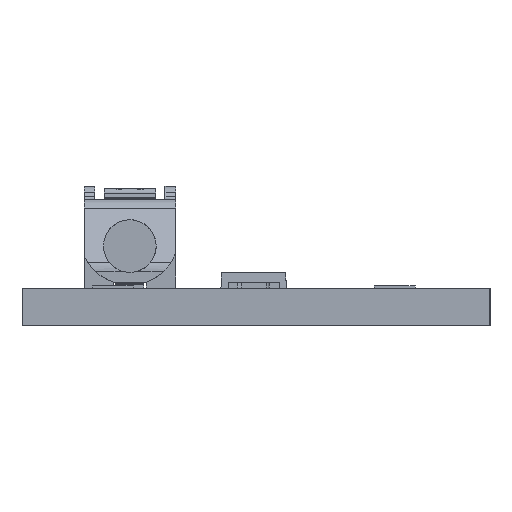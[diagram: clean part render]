
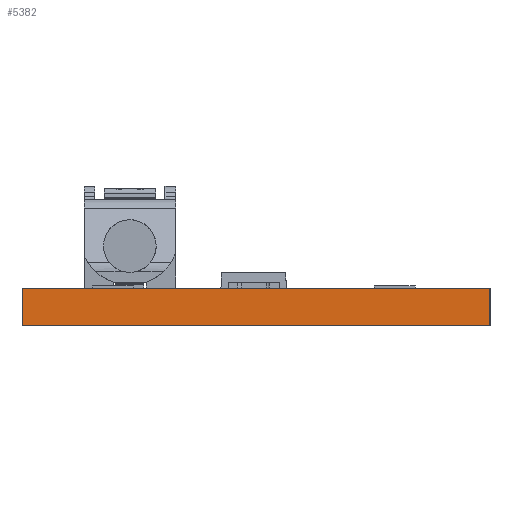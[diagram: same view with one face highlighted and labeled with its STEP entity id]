
A CAD part, left-side view. The second image highlights one B-rep face of the part: STEP entity #5382.
In plain terms, the highlighted planar face has unit normal (-1, 0, 0).
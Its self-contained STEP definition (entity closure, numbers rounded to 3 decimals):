
#351 = EDGE_CURVE ( 'NONE', #4798, #4004, #2205, .T. ) ;
#434 = CARTESIAN_POINT ( 'NONE',  ( 0., 0., 1.6 ) ) ;
#944 = LINE ( 'NONE', #434, #3892 ) ;
#994 = ORIENTED_EDGE ( 'NONE', *, *, #4680, .T. ) ;
#1592 = CARTESIAN_POINT ( 'NONE',  ( 0., 20., 1.6 ) ) ;
#1655 = CARTESIAN_POINT ( 'NONE',  ( 0., 20., 0. ) ) ;
#1953 = EDGE_LOOP ( 'NONE', ( #994, #6285, #4177, #2029 ) ) ;
#2029 = ORIENTED_EDGE ( 'NONE', *, *, #2391, .T. ) ;
#2151 = LINE ( 'NONE', #6149, #6708 ) ;
#2205 = LINE ( 'NONE', #5225, #5465 ) ;
#2360 = CARTESIAN_POINT ( 'NONE',  ( 0., 0., 1.6 ) ) ;
#2391 = EDGE_CURVE ( 'NONE', #4306, #4539, #4427, .T. ) ;
#2869 = DIRECTION ( 'NONE',  ( 0., -1., 0. ) ) ;
#2906 = DIRECTION ( 'NONE',  ( 0., 0., -1. ) ) ;
#3130 = CARTESIAN_POINT ( 'NONE',  ( 0., 20., 1.6 ) ) ;
#3892 = VECTOR ( 'NONE', #5934, 1000. ) ;
#4004 = VERTEX_POINT ( 'NONE', #4489 ) ;
#4071 = CARTESIAN_POINT ( 'NONE',  ( 0., 0., 1.6 ) ) ;
#4177 = ORIENTED_EDGE ( 'NONE', *, *, #4379, .F. ) ;
#4306 = VERTEX_POINT ( 'NONE', #3130 ) ;
#4379 = EDGE_CURVE ( 'NONE', #4306, #4798, #944, .T. ) ;
#4427 = LINE ( 'NONE', #1592, #5714 ) ;
#4489 = CARTESIAN_POINT ( 'NONE',  ( 0., 0., 0. ) ) ;
#4539 = VERTEX_POINT ( 'NONE', #1655 ) ;
#4657 = DIRECTION ( 'NONE',  ( 0., 0., -1. ) ) ;
#4680 = EDGE_CURVE ( 'NONE', #4539, #4004, #2151, .T. ) ;
#4798 = VERTEX_POINT ( 'NONE', #4071 ) ;
#5225 = CARTESIAN_POINT ( 'NONE',  ( 0., 0., 1.6 ) ) ;
#5382 = ADVANCED_FACE ( 'NONE', ( #6350 ), #5640, .F. ) ;
#5449 = DIRECTION ( 'NONE',  ( 0., 0., -1. ) ) ;
#5465 = VECTOR ( 'NONE', #4657, 1000. ) ;
#5640 = PLANE ( 'NONE',  #6591 ) ;
#5714 = VECTOR ( 'NONE', #5449, 1000. ) ;
#5934 = DIRECTION ( 'NONE',  ( 0., -1., 0. ) ) ;
#6149 = CARTESIAN_POINT ( 'NONE',  ( 0., 0., 0. ) ) ;
#6191 = DIRECTION ( 'NONE',  ( 1., 0., 0. ) ) ;
#6285 = ORIENTED_EDGE ( 'NONE', *, *, #351, .F. ) ;
#6350 = FACE_OUTER_BOUND ( 'NONE', #1953, .T. ) ;
#6591 = AXIS2_PLACEMENT_3D ( 'NONE', #2360, #6191, #2906 ) ;
#6708 = VECTOR ( 'NONE', #2869, 1000. ) ;
